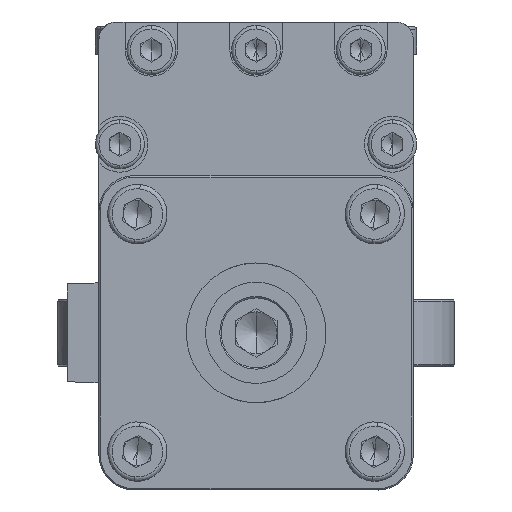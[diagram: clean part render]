
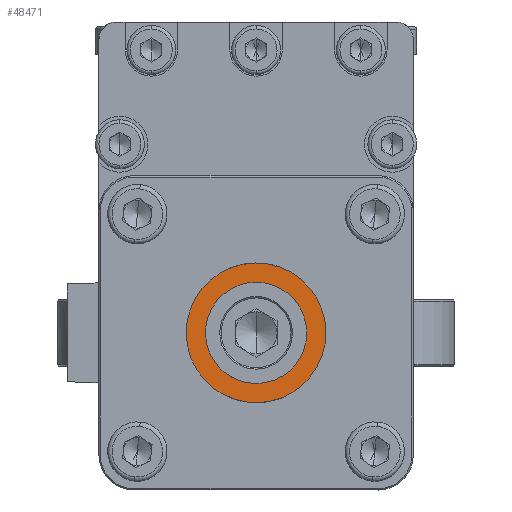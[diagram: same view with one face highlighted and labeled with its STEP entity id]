
A CAD part, left-side view. The second image highlights one B-rep face of the part: STEP entity #48471.
In plain terms, the highlighted planar face has unit normal (-1, 0, 0).
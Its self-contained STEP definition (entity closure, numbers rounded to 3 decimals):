
#1172 = CARTESIAN_POINT ( 'NONE',  ( -134.446, -12.594, 70.141 ) ) ;
#1272 = EDGE_CURVE ( 'NONE', #35829, #40290, #3044, .T. ) ;
#3044 = CIRCLE ( 'NONE', #13331, 7.25 ) ;
#5402 = AXIS2_PLACEMENT_3D ( 'NONE', #25117, #69228, #31475 ) ;
#8591 = DIRECTION ( 'NONE',  ( 1., 0., 0. ) ) ;
#13331 = AXIS2_PLACEMENT_3D ( 'NONE', #63609, #63357, #63082 ) ;
#13519 = CARTESIAN_POINT ( 'NONE',  ( -134.446, 7.382, 59.739 ) ) ;
#18192 = CIRCLE ( 'NONE', #63304, 10. ) ;
#19008 = FACE_OUTER_BOUND ( 'NONE', #65091, .T. ) ;
#19773 = CARTESIAN_POINT ( 'NONE',  ( -134.446, 4.654, 69.898 ) ) ;
#19868 = DIRECTION ( 'NONE',  ( 0., 1., -0.014 ) ) ;
#24045 = ORIENTED_EDGE ( 'NONE', *, *, #44224, .F. ) ;
#25117 = CARTESIAN_POINT ( 'NONE',  ( -134.446, -2.595, 70. ) ) ;
#30208 = AXIS2_PLACEMENT_3D ( 'NONE', #73690, #35972, #80010 ) ;
#31475 = DIRECTION ( 'NONE',  ( 0., 1., -0.014 ) ) ;
#33842 = CIRCLE ( 'NONE', #5402, 7.25 ) ;
#35829 = VERTEX_POINT ( 'NONE', #42729 ) ;
#35972 = DIRECTION ( 'NONE',  ( 1., 0., 0. ) ) ;
#40290 = VERTEX_POINT ( 'NONE', #19773 ) ;
#42729 = CARTESIAN_POINT ( 'NONE',  ( -134.446, -9.844, 70.102 ) ) ;
#43598 = EDGE_CURVE ( 'NONE', #76048, #71730, #77483, .T. ) ;
#44224 = EDGE_CURVE ( 'NONE', #40290, #35829, #33842, .T. ) ;
#45081 = AXIS2_PLACEMENT_3D ( 'NONE', #13519, #57701, #19868 ) ;
#46383 = CARTESIAN_POINT ( 'NONE',  ( -134.446, -2.595, 70. ) ) ;
#48471 = ADVANCED_FACE ( 'NONE', ( #19008, #69325 ), #70028, .F. ) ;
#50892 = EDGE_CURVE ( 'NONE', #71730, #76048, #18192, .T. ) ;
#52460 = ORIENTED_EDGE ( 'NONE', *, *, #1272, .F. ) ;
#52742 = DIRECTION ( 'NONE',  ( 0., -1., 0.014 ) ) ;
#52757 = CARTESIAN_POINT ( 'NONE',  ( -134.446, 7.404, 69.859 ) ) ;
#57701 = DIRECTION ( 'NONE',  ( 1., 0., 0. ) ) ;
#63082 = DIRECTION ( 'NONE',  ( 0., 1., -0.014 ) ) ;
#63304 = AXIS2_PLACEMENT_3D ( 'NONE', #46383, #8591, #52742 ) ;
#63357 = DIRECTION ( 'NONE',  ( -1., 0., 0. ) ) ;
#63609 = CARTESIAN_POINT ( 'NONE',  ( -134.446, -2.595, 70. ) ) ;
#65091 = EDGE_LOOP ( 'NONE', ( #65144, #71658 ) ) ;
#65144 = ORIENTED_EDGE ( 'NONE', *, *, #50892, .F. ) ;
#69228 = DIRECTION ( 'NONE',  ( -1., 0., 0. ) ) ;
#69325 = FACE_BOUND ( 'NONE', #77179, .T. ) ;
#70028 = PLANE ( 'NONE',  #45081 ) ;
#71658 = ORIENTED_EDGE ( 'NONE', *, *, #43598, .F. ) ;
#71730 = VERTEX_POINT ( 'NONE', #1172 ) ;
#73690 = CARTESIAN_POINT ( 'NONE',  ( -134.446, -2.595, 70. ) ) ;
#76048 = VERTEX_POINT ( 'NONE', #52757 ) ;
#77179 = EDGE_LOOP ( 'NONE', ( #24045, #52460 ) ) ;
#77483 = CIRCLE ( 'NONE', #30208, 10. ) ;
#80010 = DIRECTION ( 'NONE',  ( 0., -1., 0.014 ) ) ;
